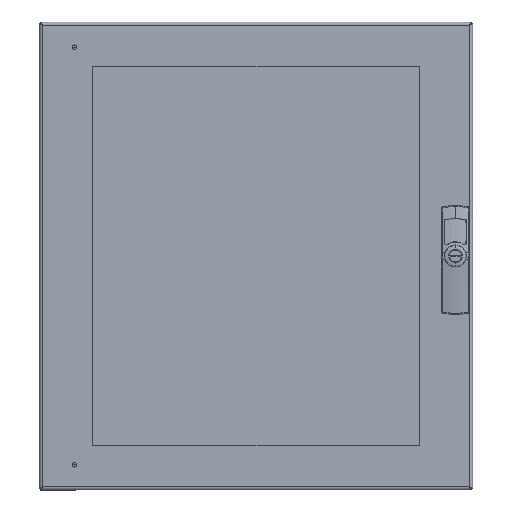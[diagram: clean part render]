
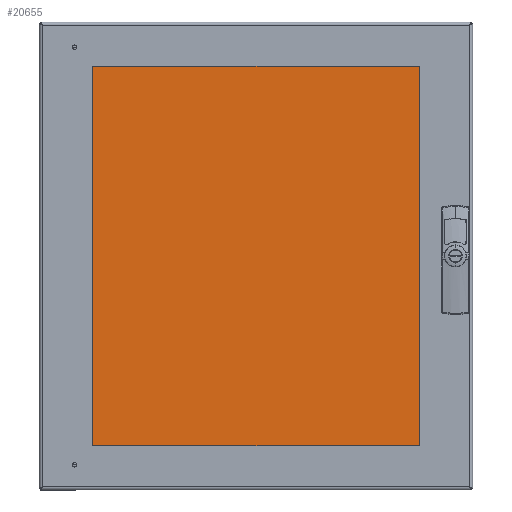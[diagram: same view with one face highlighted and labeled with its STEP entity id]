
A CAD part, top view. The second image highlights one B-rep face of the part: STEP entity #20655.
In plain terms, the highlighted planar face has unit normal (0, 0, 1) as drawn and (0, 0, -1) by its records, which use the part's own axes.
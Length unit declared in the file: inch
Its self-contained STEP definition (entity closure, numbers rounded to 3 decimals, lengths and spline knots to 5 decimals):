
#3973 = CARTESIAN_POINT ( 'NONE',  ( -9.22047, 10.625, 0. ) ) ;
#4038 = CARTESIAN_POINT ( 'NONE',  ( 9.22047, -10.625, 0. ) ) ;
#4059 = CARTESIAN_POINT ( 'NONE',  ( -9.22047, -10.625, 0. ) ) ;
#4103 = CARTESIAN_POINT ( 'NONE',  ( 9.22047, 10.625, 0. ) ) ;
#12150 = CARTESIAN_POINT ( 'NONE',  ( -9.22047, 10.625, 0. ) ) ;
#12154 = DIRECTION ( 'NONE',  ( -1., 0., 0. ) ) ;
#12618 = DIRECTION ( 'NONE',  ( 0., 1., 0. ) ) ;
#12767 = CARTESIAN_POINT ( 'NONE',  ( 9.22047, 10.625, 0. ) ) ;
#18221 = ORIENTED_EDGE ( 'NONE', *, *, #22470, .F. ) ;
#18222 = ORIENTED_EDGE ( 'NONE', *, *, #22515, .F. ) ;
#18274 = ORIENTED_EDGE ( 'NONE', *, *, #22504, .F. ) ;
#18293 = ORIENTED_EDGE ( 'NONE', *, *, #22487, .F. ) ;
#20655 = ADVANCED_FACE ( 'NONE', ( #29727 ), #44333, .F. ) ;
#22470 = EDGE_CURVE ( 'NONE', #31141, #30956, #33702, .T. ) ;
#22487 = EDGE_CURVE ( 'NONE', #31050, #31141, #33712, .T. ) ;
#22504 = EDGE_CURVE ( 'NONE', #31079, #31050, #33732, .T. ) ;
#22515 = EDGE_CURVE ( 'NONE', #30956, #31079, #33741, .T. ) ;
#24815 = EDGE_LOOP ( 'NONE', ( #18222, #18221, #18293, #18274 ) ) ;
#25561 = CARTESIAN_POINT ( 'NONE',  ( -9.22047, 10.625, 0. ) ) ;
#25572 = DIRECTION ( 'NONE',  ( 0., -1., 0. ) ) ;
#25670 = DIRECTION ( 'NONE',  ( 1., 0., 0. ) ) ;
#25671 = CARTESIAN_POINT ( 'NONE',  ( -9.22047, -10.625, 0. ) ) ;
#26549 = AXIS2_PLACEMENT_3D ( 'NONE', #44710, #44328, #44665 ) ;
#29727 = FACE_OUTER_BOUND ( 'NONE', #24815, .T. ) ;
#30956 = VERTEX_POINT ( 'NONE', #3973 ) ;
#31050 = VERTEX_POINT ( 'NONE', #4038 ) ;
#31079 = VERTEX_POINT ( 'NONE', #4059 ) ;
#31141 = VERTEX_POINT ( 'NONE', #4103 ) ;
#33699 = VECTOR ( 'NONE', #12154, 39.37008 ) ;
#33702 = LINE ( 'NONE', #12150, #33699 ) ;
#33711 = VECTOR ( 'NONE', #12618, 39.37008 ) ;
#33712 = LINE ( 'NONE', #12767, #33711 ) ;
#33727 = VECTOR ( 'NONE', #25670, 39.37008 ) ;
#33732 = LINE ( 'NONE', #25671, #33727 ) ;
#33741 = LINE ( 'NONE', #25561, #33742 ) ;
#33742 = VECTOR ( 'NONE', #25572, 39.37008 ) ;
#44328 = DIRECTION ( 'NONE',  ( 0., 0., 1. ) ) ;
#44333 = PLANE ( 'NONE',  #26549 ) ;
#44665 = DIRECTION ( 'NONE',  ( 1., 0., 0. ) ) ;
#44710 = CARTESIAN_POINT ( 'NONE',  ( -9.22047, 10.625, 0. ) ) ;
